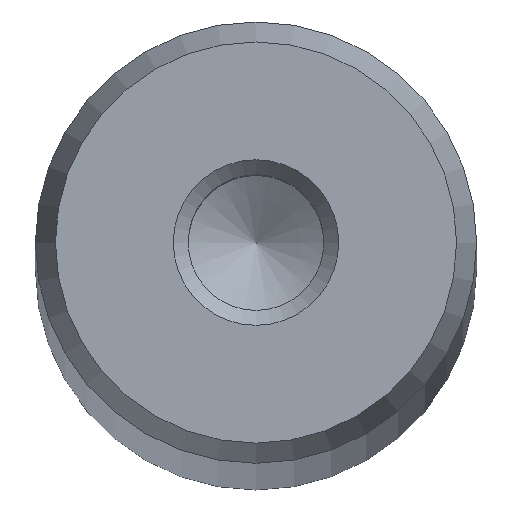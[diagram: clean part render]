
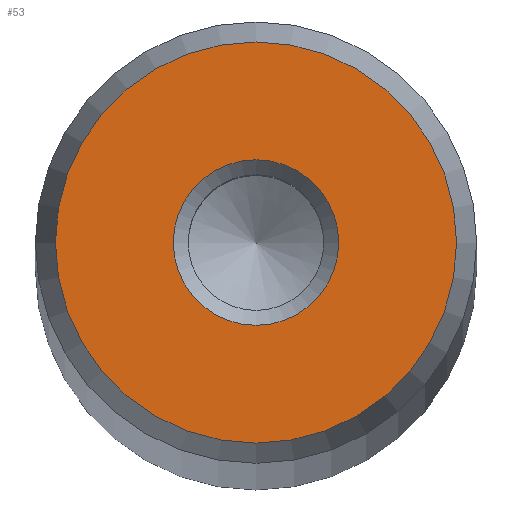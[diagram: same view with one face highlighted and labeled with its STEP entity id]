
A CAD part, top view. The second image highlights one B-rep face of the part: STEP entity #53.
In plain terms, the highlighted planar face has unit normal (0, 0, 1).
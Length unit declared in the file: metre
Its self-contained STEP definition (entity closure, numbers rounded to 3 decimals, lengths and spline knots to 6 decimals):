
#53 = ADVANCED_FACE( '', ( #112, #113 ), #114, .T. );
#112 = FACE_OUTER_BOUND( '', #171, .T. );
#113 = FACE_BOUND( '', #172, .T. );
#114 = PLANE( '', #173 );
#171 = EDGE_LOOP( '', ( #240 ) );
#172 = EDGE_LOOP( '', ( #241 ) );
#173 = AXIS2_PLACEMENT_3D( '', #242, #243, #244 );
#240 = ORIENTED_EDGE( '', *, *, #273, .T. );
#241 = ORIENTED_EDGE( '', *, *, #290, .T. );
#242 = CARTESIAN_POINT( '', ( 0., 0., 0.557 ) );
#243 = DIRECTION( '', ( 0., 0., 1. ) );
#244 = DIRECTION( '', ( 1., 0., 0. ) );
#273 = EDGE_CURVE( '', #302, #302, #303, .T. );
#290 = EDGE_CURVE( '', #327, #327, #328, .T. );
#302 = VERTEX_POINT( '', #339 );
#303 = CIRCLE( '', #340, 0.007272 );
#327 = VERTEX_POINT( '', #364 );
#328 = CIRCLE( '', #365, 0.003 );
#339 = CARTESIAN_POINT( '', ( 0.007272, 0., 0.557 ) );
#340 = AXIS2_PLACEMENT_3D( '', #376, #377, #378 );
#364 = CARTESIAN_POINT( '', ( 0.003, 0., 0.557 ) );
#365 = AXIS2_PLACEMENT_3D( '', #403, #404, #405 );
#376 = CARTESIAN_POINT( '', ( 0., 0., 0.557 ) );
#377 = DIRECTION( '', ( 0., 0., 1. ) );
#378 = DIRECTION( '', ( 1., 0., 0. ) );
#403 = CARTESIAN_POINT( '', ( 0., 0., 0.557 ) );
#404 = DIRECTION( '', ( 0., 0., -1. ) );
#405 = DIRECTION( '', ( 1., 0., 0. ) );
